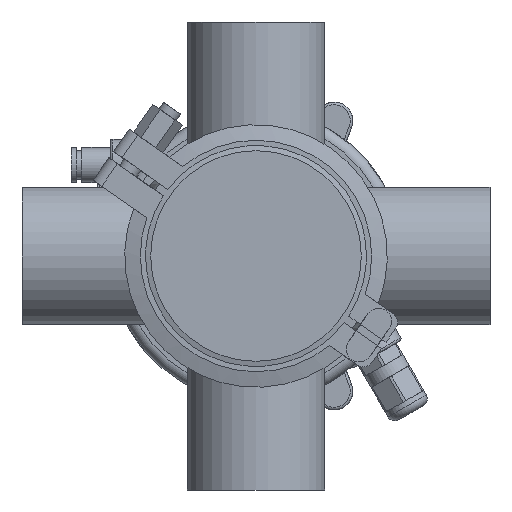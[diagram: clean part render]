
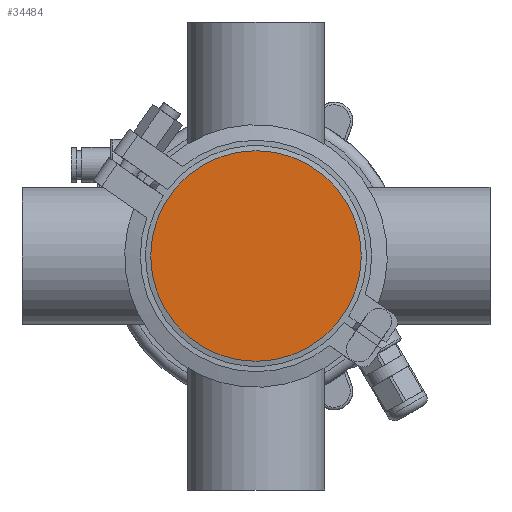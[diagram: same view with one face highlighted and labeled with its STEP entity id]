
A CAD part, front view. The second image highlights one B-rep face of the part: STEP entity #34484.
In plain terms, the highlighted planar face has unit normal (0, -1, 0).
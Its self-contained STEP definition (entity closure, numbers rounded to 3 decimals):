
#31 = CARTESIAN_POINT ( 'NONE',  ( 0., 0., 40.5 ) ) ;
#788 = FACE_OUTER_BOUND ( 'NONE', #52504, .T. ) ;
#10332 = PLANE ( 'NONE',  #23119 ) ;
#13699 = CARTESIAN_POINT ( 'NONE',  ( 0., 0., 0. ) ) ;
#14810 = VERTEX_POINT ( 'NONE', #31 ) ;
#19821 = DIRECTION ( 'NONE',  ( 0., 0., 1. ) ) ;
#23119 = AXIS2_PLACEMENT_3D ( 'NONE', #38427, #34051, #53219 ) ;
#31161 = ORIENTED_EDGE ( 'NONE', *, *, #39110, .F. ) ;
#32495 = DIRECTION ( 'NONE',  ( 0., 1., 0. ) ) ;
#34051 = DIRECTION ( 'NONE',  ( 0., -1., 0. ) ) ;
#34484 = ADVANCED_FACE ( 'NONE', ( #788 ), #10332, .T. ) ;
#37180 = CIRCLE ( 'NONE', #41130, 40.5 ) ;
#38427 = CARTESIAN_POINT ( 'NONE',  ( -40.5, 0., 0. ) ) ;
#39110 = EDGE_CURVE ( 'NONE', #14810, #14810, #37180, .T. ) ;
#41130 = AXIS2_PLACEMENT_3D ( 'NONE', #13699, #32495, #19821 ) ;
#52504 = EDGE_LOOP ( 'NONE', ( #31161 ) ) ;
#53219 = DIRECTION ( 'NONE',  ( 0., 0., -1. ) ) ;
